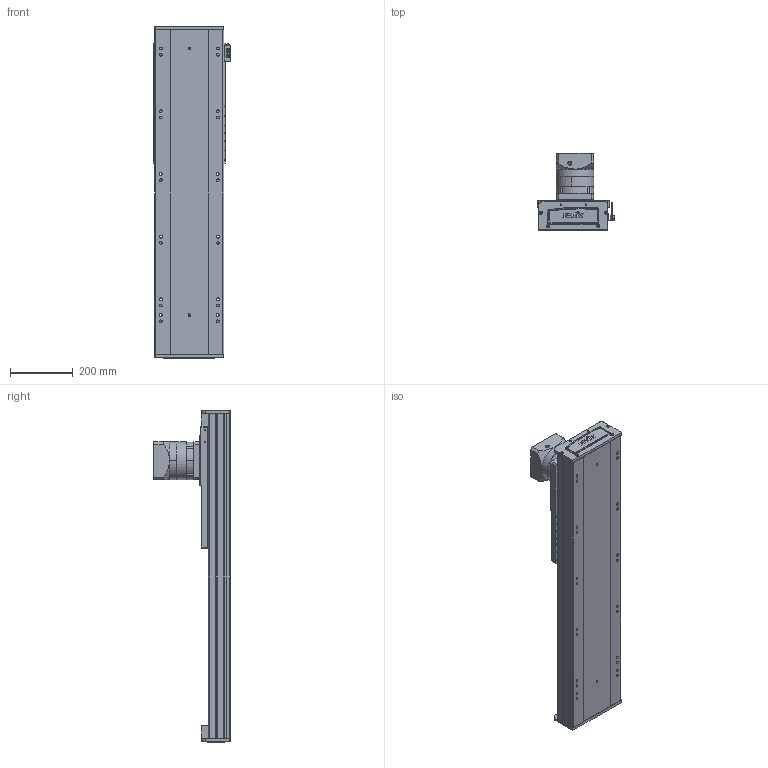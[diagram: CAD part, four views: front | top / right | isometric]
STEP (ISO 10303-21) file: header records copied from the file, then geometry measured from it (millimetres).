
FILE_DESCRIPTION (( 'STEP AP203' ), '1' );
FILE_NAME ('RY220-C-300-UK.SLDASM_0550.step', '2022-08-01T05:58:41', ( '' ), ( '' ), 'SwSTEP 2.0', 'SolidWorks 2016', '' );
FILE_SCHEMA (( 'CONFIG_CONTROL_DESIGN' ));
Length unit declared in the file: millimetre
Products named in the file (10): RY220菁釱MK-300_0550; 滅袉蝶輸ㄗG412隅秶ㄘ; RY220-C-300-UK.SLDASM_0550; RY220喘沭綴裔啣; PF115L1-S2-22-58-110-145-M8; RY140直线电机感应器674光电安装座; RY220喘沭賑輸; RY220喘沭俋离覜茼え; 覜茼ん674; RY220-齿条模组电机安装板
Assembly tree (12 placements, depth 2):
  RY220-C-300-UK.SLDASM_0550
    RY220菁釱MK-300_0550
    RY220喘沭賑輸
    RY220-齿条模组电机安装板
    PF115L1-S2-22-58-110-145-M8
    RY220喘沭綴裔啣  x2
    滅袉蝶輸ㄗG412隅秶ㄘ  x2
    RY140直线电机感应器674光电安装座
    覜茼ん674  x2
    RY220喘沭俋离覜茼え
Bounding box: 247 x 244.5 x 1059 mm (x, y, z)
Volume: 9970572.2 mm3; surface area: 1900688.1 mm2
Topology: 18 solids, 26 shells, 1866 faces, 4993 edges, 3205 vertices
Faces by surface type: cylinder 831, plane 751, bspline 162, cone 122
Entity records: 58933 total; most frequent: CARTESIAN_POINT 16367, ORIENTED_EDGE 8642, DIRECTION 8627, EDGE_CURVE 4321, AXIS2_PLACEMENT_3D 3253, VERTEX_POINT 2831, LINE 2121, VECTOR 2121
